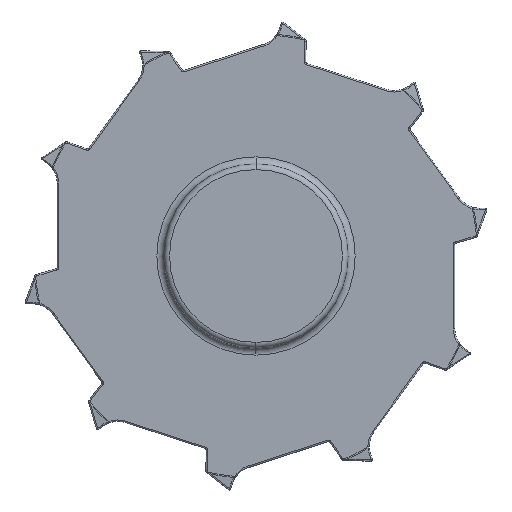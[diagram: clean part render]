
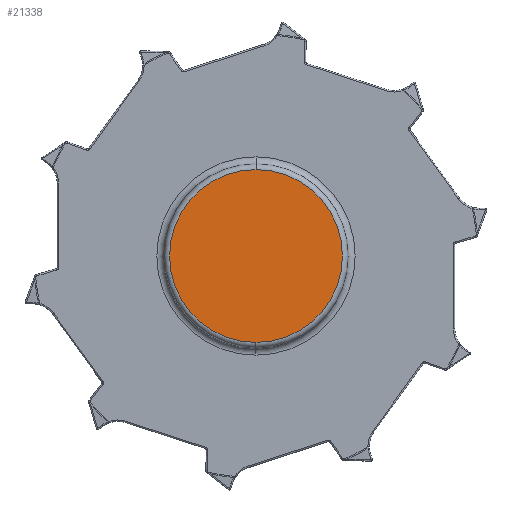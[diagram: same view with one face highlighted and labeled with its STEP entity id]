
A CAD part, left-side view. The second image highlights one B-rep face of the part: STEP entity #21338.
In plain terms, the highlighted planar face has unit normal (-1, 0, 0).
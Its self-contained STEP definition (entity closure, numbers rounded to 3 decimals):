
#6248=CARTESIAN_POINT('',(-21.15,0.,0.));
#6249=DIRECTION('',(-1.,0.,0.));
#6250=DIRECTION('',(0.,0.,1.));
#6251=AXIS2_PLACEMENT_3D('',#6248,#6249,#6250);
#6256=CARTESIAN_POINT('',(-21.15,0.,0.));
#6257=DIRECTION('',(1.,0.,0.));
#6258=DIRECTION('',(0.,0.,1.));
#6259=AXIS2_PLACEMENT_3D('',#6256,#6257,#6258);
#15770=CARTESIAN_POINT('',(-21.15,0.,30.5));
#15771=VERTEX_POINT('',#15770);
#15786=CARTESIAN_POINT('',(-21.15,0.,-30.5));
#15787=VERTEX_POINT('',#15786);
#21329=CARTESIAN_POINT('',(-21.15,0.,0.));
#21330=DIRECTION('',(1.,0.,0.));
#21331=DIRECTION('',(0.,0.,-1.));
#21332=AXIS2_PLACEMENT_3D('',#21329,#21330,#21331);
#21333=PLANE('',#21332);
#21334=ORIENTED_EDGE('',*,*,#21308,.F.);
#21335=ORIENTED_EDGE('',*,*,#21324,.T.);
#21336=EDGE_LOOP('',(#21334,#21335));
#21337=FACE_OUTER_BOUND('',#21336,.F.);
#6252=CIRCLE('',#6251,30.5);
#6260=CIRCLE('',#6259,30.5);
#21308=EDGE_CURVE('',#15771,#15787,#6252,.T.);
#21324=EDGE_CURVE('',#15771,#15787,#6260,.T.);
#21338=ADVANCED_FACE('',(#21337),#21333,.F.);
